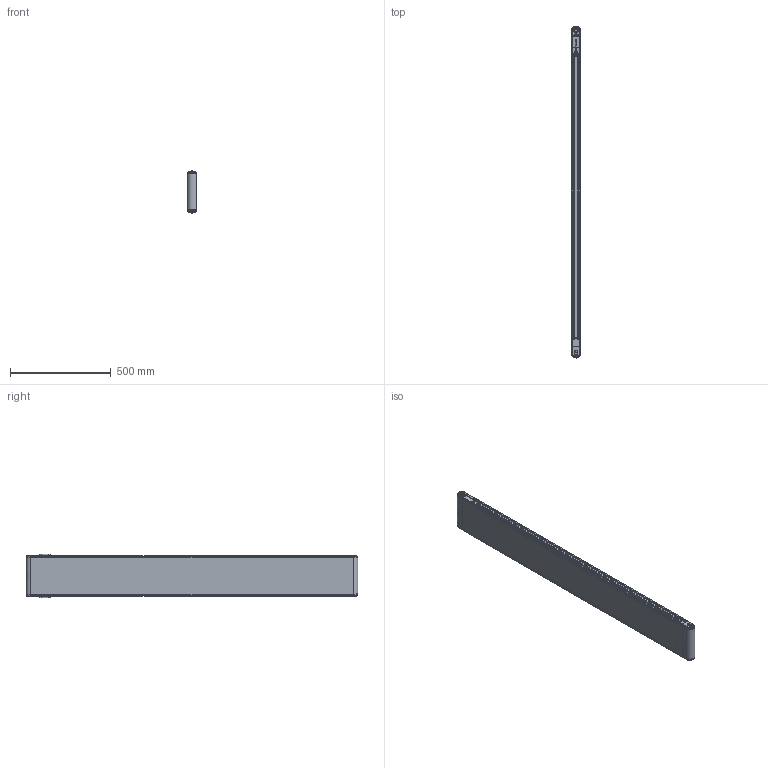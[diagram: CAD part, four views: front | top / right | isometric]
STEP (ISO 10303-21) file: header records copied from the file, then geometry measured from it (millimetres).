
FILE_DESCRIPTION(/* description */ (''),/* implementation_level */ '2;1');
FILE_NAME(/* name */ 'G:\DATEN\CAD\Förderband\Marketing\3D-Modelle (Standard)\FR-40-200\FR-40-200-1600-K.stp',/* time_stamp */ '2019-05-08T09:23:46+02:00',/* author */ ('melanie.ochs'),/* organization */ (''),/* preprocessor_version */ 'ST-DEVELOPER v17',/* originating_system */ 'Autodesk Inventor 2019',/* authorisation */ '');
FILE_SCHEMA (('CONFIG_CONTROL_DESIGN'));
Length unit declared in the file: centimetre
Products named in the file (1): FR-40-200-1600-K
Bounding box: 46.6 x 1646.6 x 217.07 mm (x, y, z)
Volume: 4037134.7 mm3; surface area: 2226171 mm2
Topology: 7 solids, 25 shells, 1142 faces, 3151 edges, 2095 vertices
Faces by surface type: plane 561, cylinder 336, bspline 124, cone 83, torus 38
Full cylindrical faces by diameter (mm): 2 x4, 4 x6, 4.3 x4, 4.917 x1, 5 x14, 5.5 x8, 6 x4, 6.647 x2, 8 x4, 8.3 x12, 8.5 x8, 8.773 x2, 10 x2, 11 x2, 12 x3, 15 x2, 20 x4, 25 x2, 28 x4
Entity records: 39370 total; most frequent: CARTESIAN_POINT 9452, ORIENTED_EDGE 6278, DIRECTION 5711, EDGE_CURVE 3139, VERTEX_POINT 2095, AXIS2_PLACEMENT_3D 2031, LINE 1649, VECTOR 1649
